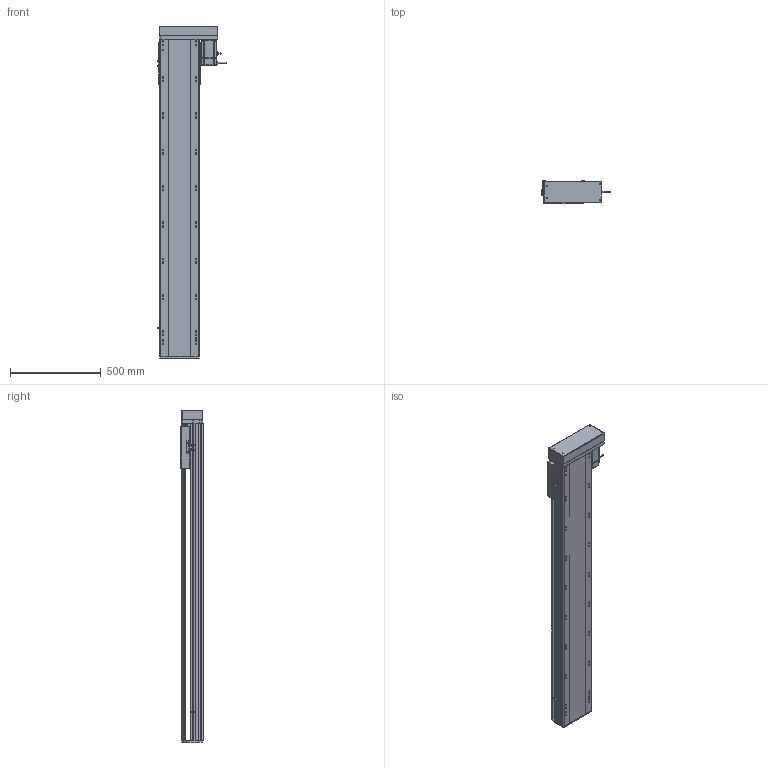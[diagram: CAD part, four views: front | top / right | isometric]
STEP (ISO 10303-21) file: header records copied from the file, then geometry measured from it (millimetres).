
FILE_DESCRIPTION (( 'STEP AP214' ), '1' );
FILE_NAME ('RTH22-XX-1450-L-M75-C4.STEP', '2025-10-24T11:03:24', ( 'Microsoft' ), ( 'Microsoft' ), 'SwSTEP 2.0', 'SolidWorks 2018', '' );
FILE_SCHEMA (( 'AUTOMOTIVE_DESIGN' ));
Length unit declared in the file: millimetre
Products named in the file (10): N_RTH22-L-011菁釱^RTH22-XX-XX-L-M75-C4; N_RTH22-L-004-SFS25賑釱^RTH22-XX-XX-L-M75-C4; N_RTH22-L-018裔赽^RTH22-XX-XX-L-M75-C4; RTH22-XX-1450-L-M75-C4; N_RTH22-L-007奻裔^RTH22-XX-XX-L-M75-C4; N_RTH22-GY-001耜裔^RTH22-XX-XX-L-M75-C4; N_OMRON EE-SX672 传感器^RTH22-XX-XX-L-M75-C4; N_RTH22-GY-013外置感应片^RTH22-XX-XX-L-M75-C4; N_RTH22-L-008-P75萇儂啣^RTH22-XX-XX-L-M75-C4; N_750W萇儂^RTH22-XX-XX-L-M75-C4
Assembly tree (11 placements, depth 2):
  RTH22-XX-1450-L-M75-C4
    N_RTH22-L-011菁釱^RTH22-XX-XX-L-M75-C4
    N_RTH22-GY-001耜裔^RTH22-XX-XX-L-M75-C4
    N_750W萇儂^RTH22-XX-XX-L-M75-C4
    N_RTH22-L-008-P75萇儂啣^RTH22-XX-XX-L-M75-C4
    N_RTH22-L-007奻裔^RTH22-XX-XX-L-M75-C4
    N_RTH22-L-018裔赽^RTH22-XX-XX-L-M75-C4
    N_OMRON EE-SX672 传感器^RTH22-XX-XX-L-M75-C4  x3
    N_RTH22-GY-013外置感应片^RTH22-XX-XX-L-M75-C4
    N_RTH22-L-004-SFS25賑釱^RTH22-XX-XX-L-M75-C4
Bounding box: 384.7 x 122 x 1829.7 mm (x, y, z)
Volume: 24150818.7 mm3; surface area: 2636458.1 mm2
Topology: 11 solids, 11 shells, 1660 faces, 4529 edges, 2911 vertices
Faces by surface type: plane 801, cylinder 506, bspline 279, cone 74
Entity records: 42309 total; most frequent: CARTESIAN_POINT 12706, ORIENTED_EDGE 6002, DIRECTION 5731, EDGE_CURVE 3001, AXIS2_PLACEMENT_3D 1956, VERTEX_POINT 1947, LINE 1819, VECTOR 1819
